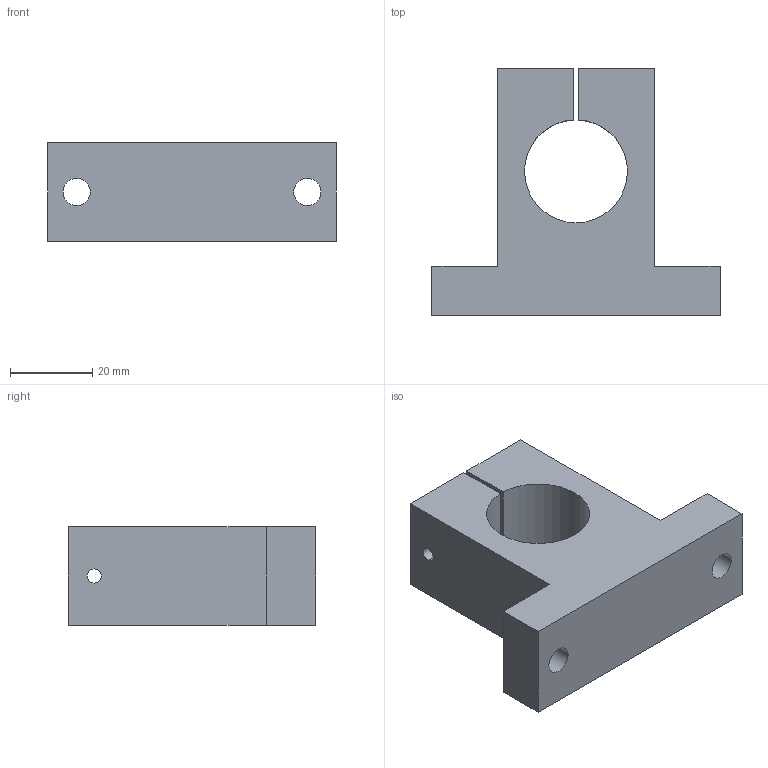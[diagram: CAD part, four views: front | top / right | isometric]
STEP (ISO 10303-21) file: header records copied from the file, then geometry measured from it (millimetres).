
FILE_DESCRIPTION((''),'2;1');
FILE_NAME('C:\Documents and Settings\ｿﾀﾀ蠑ｷ1\ｹﾙﾅﾁ ﾈｭｸ饅\ｺﾎﾇｰﾆﾄﾀﾏ\ﾁｦﾇｰ\SK\SK25.stp','2005-06-15T17:41:24',('ｿﾀﾀ蠑ｷ1'),(''),'Autodesk Inventor 9','Autodesk Inventor 9','');
FILE_SCHEMA(('AUTOMOTIVE_DESIGN { 1 0 10303 214 1 1 1 1 }'));
Length unit declared in the file: millimetre
Products named in the file (1): SK__
Bounding box: 70 x 60 x 24 mm (x, y, z)
Volume: 49973.9 mm3; surface area: 13913.8 mm2
Topology: 1 solids, 1 shells, 27 faces, 72 edges, 48 vertices
Faces by surface type: plane 13, bspline 11, cylinder 3
Entity records: 1021 total; most frequent: CARTESIAN_POINT 321, ORIENTED_EDGE 144, DIRECTION 132, EDGE_CURVE 72, VERTEX_POINT 48, VECTOR 46, LINE 46, AXIS2_PLACEMENT_3D 43
